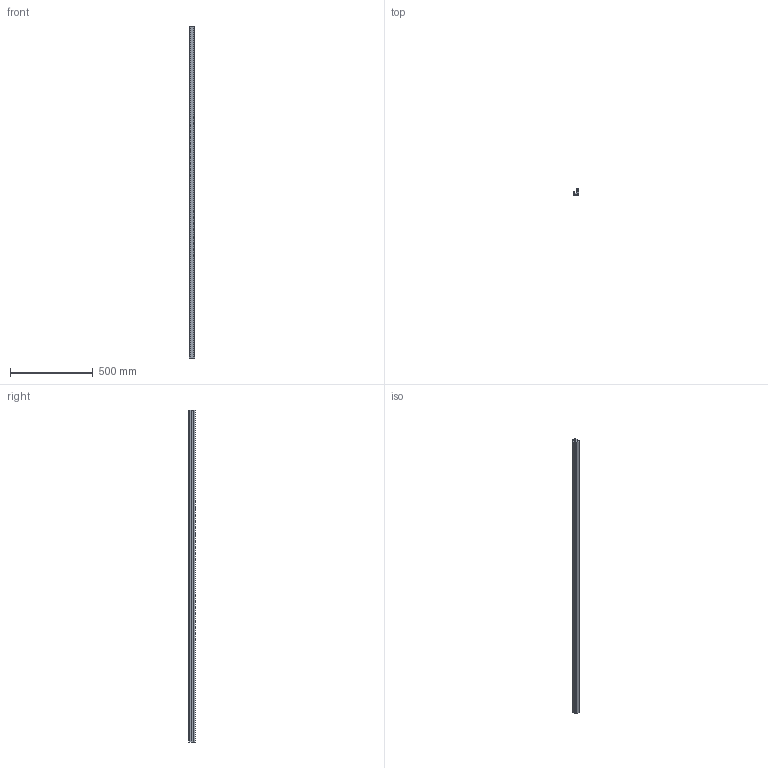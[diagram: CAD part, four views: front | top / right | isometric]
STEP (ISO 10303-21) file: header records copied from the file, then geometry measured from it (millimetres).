
FILE_DESCRIPTION (( 'STEP AP214' ), '1' );
FILE_NAME ('GHGE08.STEP', '2024-01-24T10:35:14', ( '' ), ( '' ), 'SwSTEP 2.0', 'SolidWorks 2022', '' );
FILE_SCHEMA (( 'AUTOMOTIVE_DESIGN' ));
Length unit declared in the file: millimetre
Products named in the file (3): C2812; GHGE08; GHGE08.SG
Assembly tree (2 placements, depth 2):
  GHGE08
    GHGE08.SG
    C2812
Bounding box: 32 x 42 x 2000 mm (x, y, z)
Volume: 1484632.7 mm3; surface area: 629931.1 mm2
Topology: 2 solids, 2 shells, 44 faces, 120 edges, 80 vertices
Faces by surface type: plane 40, cylinder 4
Entity records: 1482 total; most frequent: CARTESIAN_POINT 249, ORIENTED_EDGE 240, DIRECTION 226, EDGE_CURVE 120, LINE 112, VECTOR 112, VERTEX_POINT 80, AXIS2_PLACEMENT_3D 57
